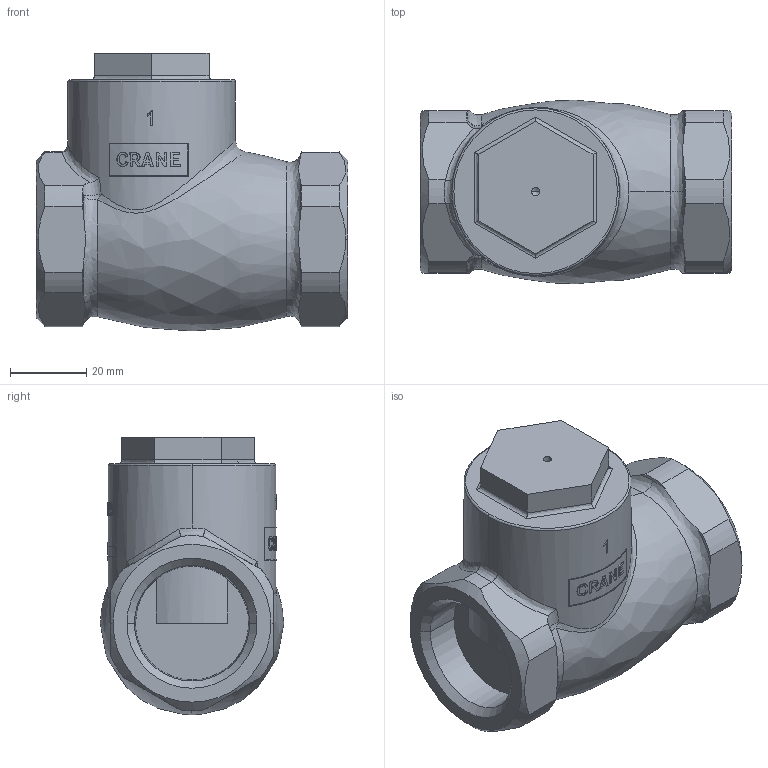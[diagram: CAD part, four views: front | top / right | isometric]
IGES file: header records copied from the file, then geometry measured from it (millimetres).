
Global section: file name: No Iges File Name specified; native system: AutoDesk Inventor R12.0; preprocessor: AutoDesk Inventor Iges Exporter R12.0; date: 20110303.102302; units: millimetre
Bounding box: 81.5 x 48 x 72.7 mm (x, y, z)
Volume: 133550.2 mm3; surface area: 24810.5 mm2
Topology: 1 solids, 2 shells, 385 faces, 1072 edges, 709 vertices
Faces by surface type: bspline 207, plane 106, cylinder 32, revolution 22, cone 16, torus 2
